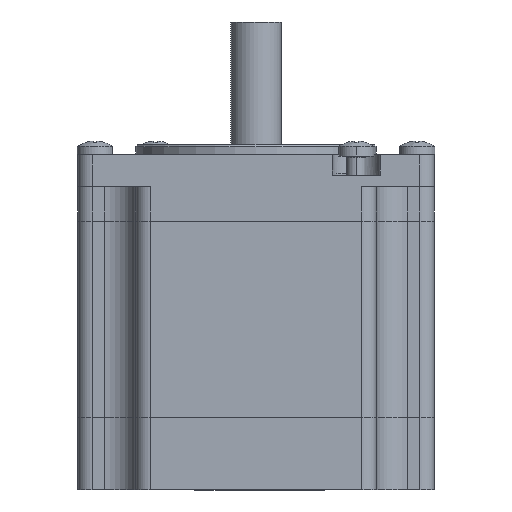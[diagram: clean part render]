
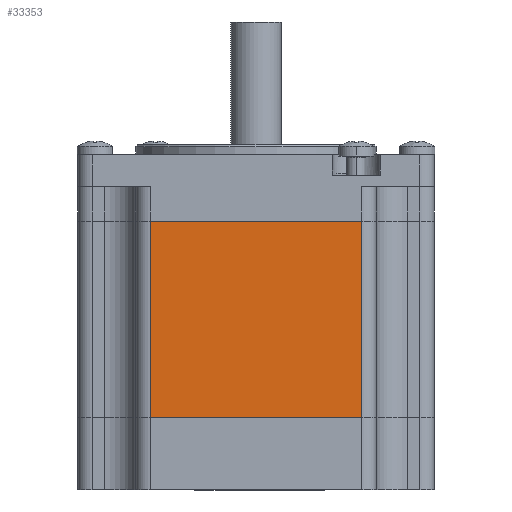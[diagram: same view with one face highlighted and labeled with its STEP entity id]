
A CAD part, front view. The second image highlights one B-rep face of the part: STEP entity #33353.
In plain terms, the highlighted planar face has unit normal (0, -1, 0).
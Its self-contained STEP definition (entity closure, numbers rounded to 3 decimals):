
#331 = DIRECTION ( 'NONE',  ( 1., 0., 0. ) ) ;
#957 = ORIENTED_EDGE ( 'NONE', *, *, #1916, .T. ) ;
#1226 = LINE ( 'NONE', #25747, #55443 ) ;
#1702 = CARTESIAN_POINT ( 'NONE',  ( -16.7, -28.2, 19. ) ) ;
#1916 = EDGE_CURVE ( 'NONE', #52553, #50581, #16434, .T. ) ;
#3935 = FACE_OUTER_BOUND ( 'NONE', #45543, .T. ) ;
#5653 = CARTESIAN_POINT ( 'NONE',  ( -16.7, -28.2, 0. ) ) ;
#9421 = DIRECTION ( 'NONE',  ( 0., 0., -1. ) ) ;
#11465 = CARTESIAN_POINT ( 'NONE',  ( 16.7, -28.2, 50. ) ) ;
#12551 = DIRECTION ( 'NONE',  ( 0., 0., -1. ) ) ;
#16434 = LINE ( 'NONE', #5653, #48560 ) ;
#16448 = EDGE_CURVE ( 'NONE', #52553, #25096, #1226, .T. ) ;
#18239 = ORIENTED_EDGE ( 'NONE', *, *, #22347, .F. ) ;
#19397 = ORIENTED_EDGE ( 'NONE', *, *, #23545, .T. ) ;
#21320 = DIRECTION ( 'NONE',  ( 0., 0., -1. ) ) ;
#22347 = EDGE_CURVE ( 'NONE', #25096, #32104, #54848, .T. ) ;
#23545 = EDGE_CURVE ( 'NONE', #50581, #32104, #29308, .T. ) ;
#24714 = DIRECTION ( 'NONE',  ( 1., 0., 0. ) ) ;
#25096 = VERTEX_POINT ( 'NONE', #11465 ) ;
#25747 = CARTESIAN_POINT ( 'NONE',  ( -24., -28.2, 50. ) ) ;
#26145 = PLANE ( 'NONE',  #27776 ) ;
#27776 = AXIS2_PLACEMENT_3D ( 'NONE', #55376, #47489, #21320 ) ;
#29308 = LINE ( 'NONE', #46046, #53424 ) ;
#31687 = CARTESIAN_POINT ( 'NONE',  ( -16.7, -28.2, 50. ) ) ;
#32104 = VERTEX_POINT ( 'NONE', #35336 ) ;
#33353 = ADVANCED_FACE ( 'NONE', ( #3935 ), #26145, .T. ) ;
#35336 = CARTESIAN_POINT ( 'NONE',  ( 16.7, -28.2, 19. ) ) ;
#38133 = ORIENTED_EDGE ( 'NONE', *, *, #16448, .F. ) ;
#38153 = CARTESIAN_POINT ( 'NONE',  ( 16.7, -28.2, 53. ) ) ;
#43466 = VECTOR ( 'NONE', #12551, 1000. ) ;
#45543 = EDGE_LOOP ( 'NONE', ( #957, #19397, #18239, #38133 ) ) ;
#46046 = CARTESIAN_POINT ( 'NONE',  ( -19., -28.2, 19. ) ) ;
#47489 = DIRECTION ( 'NONE',  ( 0., -1., 0. ) ) ;
#48560 = VECTOR ( 'NONE', #9421, 1000. ) ;
#50581 = VERTEX_POINT ( 'NONE', #1702 ) ;
#52553 = VERTEX_POINT ( 'NONE', #31687 ) ;
#53424 = VECTOR ( 'NONE', #24714, 1000. ) ;
#54848 = LINE ( 'NONE', #38153, #43466 ) ;
#55376 = CARTESIAN_POINT ( 'NONE',  ( -19., -28.2, 0. ) ) ;
#55443 = VECTOR ( 'NONE', #331, 1000. ) ;
